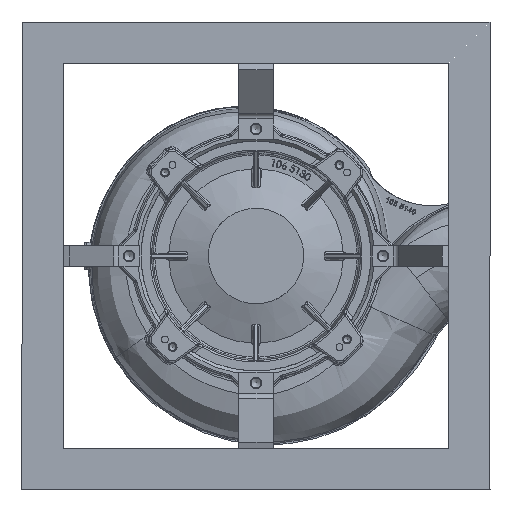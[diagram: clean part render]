
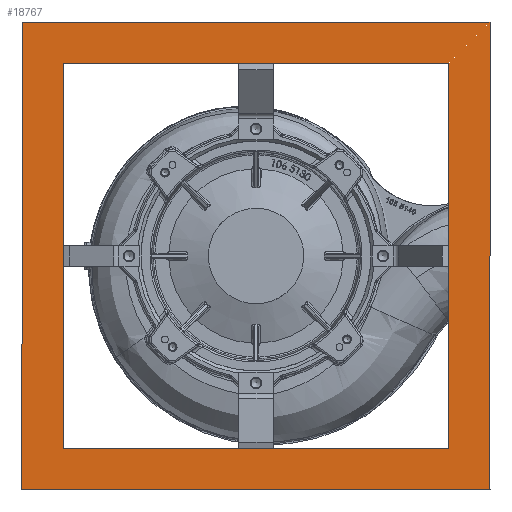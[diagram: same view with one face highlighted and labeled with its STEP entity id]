
A CAD part, left-side view. The second image highlights one B-rep face of the part: STEP entity #18767.
In plain terms, the highlighted planar face has unit normal (-1, 0, 0).
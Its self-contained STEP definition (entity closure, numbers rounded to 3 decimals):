
#907 = VERTEX_POINT ( 'NONE', #127984 ) ;
#2206 = DIRECTION ( 'NONE',  ( 0., -1., 0. ) ) ;
#2979 = EDGE_CURVE ( 'NONE', #133715, #102732, #9510, .T. ) ;
#4465 = DIRECTION ( 'NONE',  ( 0., 0., 1. ) ) ;
#7174 = EDGE_LOOP ( 'NONE', ( #83433, #55991, #50835, #60556 ) ) ;
#8832 = EDGE_CURVE ( 'NONE', #102732, #115190, #84387, .T. ) ;
#9005 = EDGE_CURVE ( 'NONE', #115190, #88041, #82575, .T. ) ;
#9510 = LINE ( 'NONE', #55514, #9813 ) ;
#9813 = VECTOR ( 'NONE', #57585, 1000. ) ;
#10344 = CARTESIAN_POINT ( 'NONE',  ( -555., -341., -341. ) ) ;
#13149 = EDGE_CURVE ( 'NONE', #88041, #133715, #37109, .T. ) ;
#14716 = CARTESIAN_POINT ( 'NONE',  ( -555., -341., 341. ) ) ;
#18767 = ADVANCED_FACE ( 'NONE', ( #106747, #106296 ), #130878, .F. ) ;
#21990 = CARTESIAN_POINT ( 'NONE',  ( -555., -281., -281. ) ) ;
#25395 = CARTESIAN_POINT ( 'NONE',  ( -555., 281., -281. ) ) ;
#29448 = EDGE_CURVE ( 'NONE', #99807, #107605, #119701, .T. ) ;
#32949 = CARTESIAN_POINT ( 'NONE',  ( -555., 281., -281. ) ) ;
#37109 = LINE ( 'NONE', #25395, #38056 ) ;
#38056 = VECTOR ( 'NONE', #99277, 1000. ) ;
#39724 = CARTESIAN_POINT ( 'NONE',  ( -555., -281., -281. ) ) ;
#46029 = CARTESIAN_POINT ( 'NONE',  ( -555., 341., 341. ) ) ;
#50835 = ORIENTED_EDGE ( 'NONE', *, *, #75467, .F. ) ;
#55514 = CARTESIAN_POINT ( 'NONE',  ( -555., 281., -281. ) ) ;
#55789 = LINE ( 'NONE', #97344, #56069 ) ;
#55991 = ORIENTED_EDGE ( 'NONE', *, *, #100301, .F. ) ;
#56069 = VECTOR ( 'NONE', #119147, 1000. ) ;
#56322 = CARTESIAN_POINT ( 'NONE',  ( -555., 281., 281. ) ) ;
#57585 = DIRECTION ( 'NONE',  ( 0., 0., 1. ) ) ;
#59598 = ORIENTED_EDGE ( 'NONE', *, *, #2979, .T. ) ;
#60556 = ORIENTED_EDGE ( 'NONE', *, *, #29448, .F. ) ;
#64108 = VERTEX_POINT ( 'NONE', #135444 ) ;
#67362 = DIRECTION ( 'NONE',  ( 1., 0., 0. ) ) ;
#67977 = ORIENTED_EDGE ( 'NONE', *, *, #9005, .T. ) ;
#75467 = EDGE_CURVE ( 'NONE', #107605, #64108, #89417, .T. ) ;
#77342 = AXIS2_PLACEMENT_3D ( 'NONE', #46029, #67362, #4465 ) ;
#81897 = VECTOR ( 'NONE', #113741, 1000. ) ;
#82575 = LINE ( 'NONE', #39724, #81897 ) ;
#83433 = ORIENTED_EDGE ( 'NONE', *, *, #87880, .F. ) ;
#83679 = VECTOR ( 'NONE', #119335, 1000. ) ;
#83984 = DIRECTION ( 'NONE',  ( 0., 0., -1. ) ) ;
#84387 = LINE ( 'NONE', #107272, #83679 ) ;
#84553 = CARTESIAN_POINT ( 'NONE',  ( -555., 341., 341. ) ) ;
#87849 = ORIENTED_EDGE ( 'NONE', *, *, #13149, .T. ) ;
#87880 = EDGE_CURVE ( 'NONE', #907, #99807, #122227, .T. ) ;
#88041 = VERTEX_POINT ( 'NONE', #21990 ) ;
#89417 = LINE ( 'NONE', #10344, #89551 ) ;
#89551 = VECTOR ( 'NONE', #83984, 1000. ) ;
#97344 = CARTESIAN_POINT ( 'NONE',  ( -555., 341., -341. ) ) ;
#99277 = DIRECTION ( 'NONE',  ( 0., 1., 0. ) ) ;
#99807 = VERTEX_POINT ( 'NONE', #84553 ) ;
#100301 = EDGE_CURVE ( 'NONE', #64108, #907, #55789, .T. ) ;
#102732 = VERTEX_POINT ( 'NONE', #56322 ) ;
#106296 = FACE_BOUND ( 'NONE', #136684, .T. ) ;
#106747 = FACE_OUTER_BOUND ( 'NONE', #7174, .T. ) ;
#107272 = CARTESIAN_POINT ( 'NONE',  ( -555., 281., 281. ) ) ;
#107605 = VERTEX_POINT ( 'NONE', #14716 ) ;
#112675 = VECTOR ( 'NONE', #126218, 1000. ) ;
#113741 = DIRECTION ( 'NONE',  ( 0., 0., -1. ) ) ;
#115190 = VERTEX_POINT ( 'NONE', #135867 ) ;
#115503 = CARTESIAN_POINT ( 'NONE',  ( -555., 341., -341. ) ) ;
#117896 = CARTESIAN_POINT ( 'NONE',  ( -555., 341., 341. ) ) ;
#118737 = VECTOR ( 'NONE', #2206, 1000. ) ;
#119147 = DIRECTION ( 'NONE',  ( 0., 1., 0. ) ) ;
#119335 = DIRECTION ( 'NONE',  ( 0., -1., 0. ) ) ;
#119701 = LINE ( 'NONE', #117896, #118737 ) ;
#122006 = ORIENTED_EDGE ( 'NONE', *, *, #8832, .T. ) ;
#122227 = LINE ( 'NONE', #115503, #112675 ) ;
#126218 = DIRECTION ( 'NONE',  ( 0., 0., 1. ) ) ;
#127984 = CARTESIAN_POINT ( 'NONE',  ( -555., 341., -341. ) ) ;
#130878 = PLANE ( 'NONE',  #77342 ) ;
#133715 = VERTEX_POINT ( 'NONE', #32949 ) ;
#135444 = CARTESIAN_POINT ( 'NONE',  ( -555., -341., -341. ) ) ;
#135867 = CARTESIAN_POINT ( 'NONE',  ( -555., -281., 281. ) ) ;
#136684 = EDGE_LOOP ( 'NONE', ( #59598, #122006, #67977, #87849 ) ) ;
